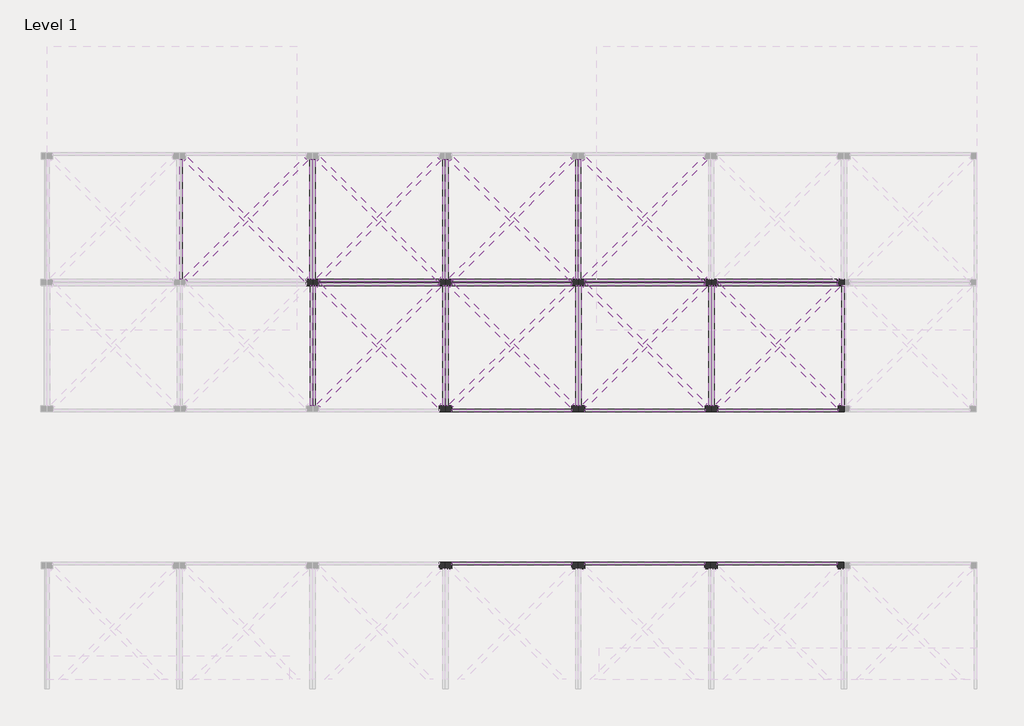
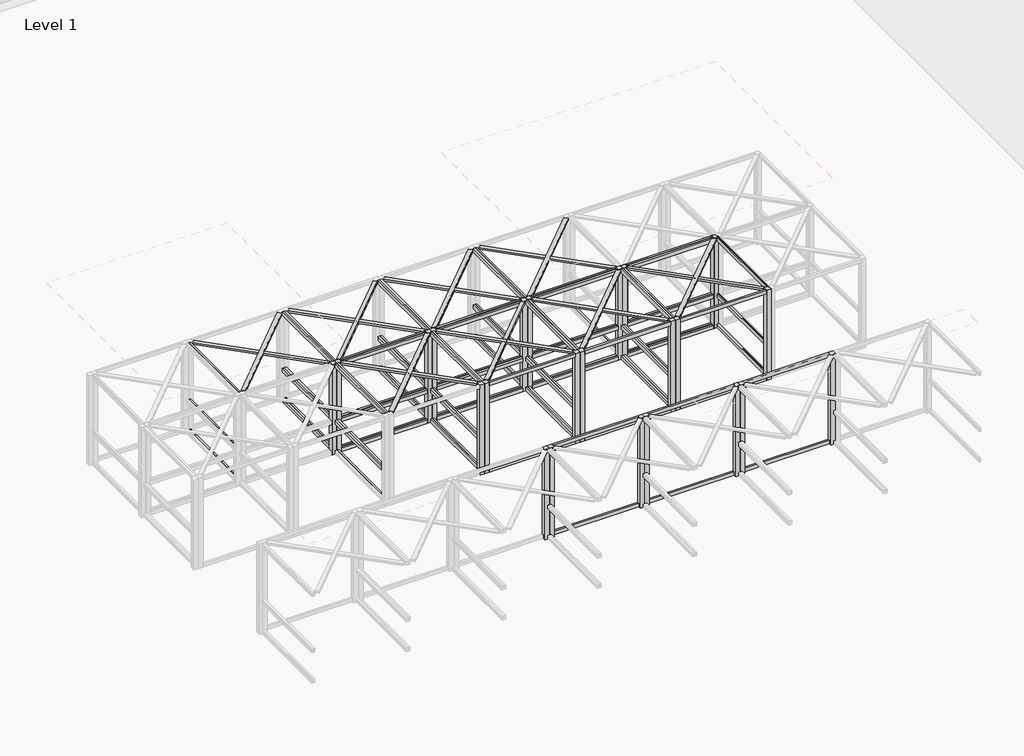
# One storey, part 22 of 32: 100 beams, 32 columns.
"""IFC4 building model written with IfcOpenShell, lengths in millimetres."""

from ifc_helpers import new_model, si_unit, origin, place, context, project, spatial, transform, mapped, element, save
from components import timber_gauged_nz_100_x_50_a05adcf6, timber_gauged_nz_100_x_50_e4b9d06e, timber_gauged_nz_100_x_50_66b63d81, timber_gauged_nz_100_x_50_718b6390, timber_gauged_nz_100_x_50_7774ab14, timber_gauged_nz_100_x_50_be6c7ca1, timber_gauged_nz_100_x_50_6be5a70a, timber_gauged_nz_100_x_50_7b7bee40, timber_gauged_nz_100_x_50_flat_212af973, timber_gauged_nz_100_x_50_flat_8016973c, column_timber_m_114x114_3b5997c2

model = new_model("IFC4")

# Units and contexts
model_context = context("Model", 3, world=origin())
ifc_project = project(units=[si_unit("LENGTHUNIT", "METRE", prefix="MILLI")], contexts=[model_context])

# Site, building, storey
site = spatial("IfcSite", under=ifc_project)
building = spatial("IfcBuilding", under=site)
storey = spatial("IfcBuildingStorey", under=building, Name="Level 1", Elevation=2800.0)

# Beams
placement = place(None, origin())
timber_gauged_nz_100_x_50_shape = timber_gauged_nz_100_x_50_a05adcf6(model_context)
element("IfcBeam", 1, ObjectType="Timber Gauged (NZ) : 100 x 50", at=placement, inside=storey, context=model_context, shape_type="MappedRepresentation", body=[
    mapped(timber_gauged_nz_100_x_50_shape, transform((-72399.6556755, -10111.9011548, 2847.0), x_axis=(1.0, 0.0, 0.0), y_axis=(0.0, 1.0, 0.0), z_axis=(0.0, 0.0, 1.0))),
])
element("IfcBeam", 2, ObjectType="Timber Gauged (NZ) : 100 x 50", at=placement, inside=storey, context=model_context, shape_type="MappedRepresentation", body=[
    mapped(timber_gauged_nz_100_x_50_shape, transform((-69999.6556755, -10111.9011548, 2847.0), x_axis=(1.0, 0.0, 0.0), y_axis=(0.0, 1.0, 0.0), z_axis=(0.0, 0.0, 1.0))),
])
element("IfcBeam", 3, ObjectType="Timber Gauged (NZ) : 100 x 50", at=placement, inside=storey, context=model_context, shape_type="MappedRepresentation", body=[
    mapped(timber_gauged_nz_100_x_50_shape, transform((-67595.3056755, -10111.9011548, 2847.0), x_axis=(1.0, 0.0, 0.0), y_axis=(0.0, 1.0, 0.0), z_axis=(0.0, 0.0, 1.0))),
])
element("IfcBeam", 4, ObjectType="Timber Gauged (NZ) : 100 x 50", at=placement, inside=storey, context=model_context, shape_type="MappedRepresentation", body=[
    mapped(timber_gauged_nz_100_x_50_shape, transform((-65190.9556755, -10111.9011548, 2847.0), x_axis=(1.0, 0.0, 0.0), y_axis=(0.0, 1.0, 0.0), z_axis=(0.0, 0.0, 1.0))),
])
element("IfcBeam", 5, ObjectType="Timber Gauged (NZ) : 100 x 50", at=placement, inside=storey, context=model_context, shape_type="MappedRepresentation", body=[
    mapped(timber_gauged_nz_100_x_50_shape, transform((-65204.0056755, -10182.1175809, 2847.0), x_axis=(-1.0, 0.0, 0.0), y_axis=(0.0, -1.0, 0.0), z_axis=(0.0, 0.0, 1.0))),
])
element("IfcBeam", 6, ObjectType="Timber Gauged (NZ) : 100 x 50", at=placement, inside=storey, context=model_context, shape_type="MappedRepresentation", body=[
    mapped(timber_gauged_nz_100_x_50_shape, transform((-67599.6556755, -10182.1175809, 2847.0), x_axis=(-1.0, 0.0, 0.0), y_axis=(0.0, -1.0, 0.0), z_axis=(0.0, 0.0, 1.0))),
])
element("IfcBeam", 7, ObjectType="Timber Gauged (NZ) : 100 x 50", at=placement, inside=storey, context=model_context, shape_type="MappedRepresentation", body=[
    mapped(timber_gauged_nz_100_x_50_shape, transform((-69999.6556755, -10182.1175809, 2847.0), x_axis=(-1.0, 0.0, 0.0), y_axis=(0.0, -1.0, 0.0), z_axis=(0.0, 0.0, 1.0))),
])
element("IfcBeam", 8, ObjectType="Timber Gauged (NZ) : 100 x 50", at=placement, inside=storey, context=model_context, shape_type="MappedRepresentation", body=[
    mapped(timber_gauged_nz_100_x_50_shape, transform((-72399.6556755, -10182.1175809, 2847.0), x_axis=(-1.0, 0.0, 0.0), y_axis=(0.0, -1.0, 0.0), z_axis=(0.0, 0.0, 1.0))),
])
timber_gauged_nz_100_x_50_2_shape = timber_gauged_nz_100_x_50_e4b9d06e(model_context)
element("IfcBeam", 9, ObjectType="Timber Gauged (NZ) : 100 x 50", at=placement, inside=storey, context=model_context, shape_type="MappedRepresentation", body=[
    mapped(timber_gauged_nz_100_x_50_2_shape, transform((-65190.8306755, -15229.1175809, 2847.0), x_axis=(-1.0, 0.0, 0.0), y_axis=(0.0, -1.0, 0.0), z_axis=(0.0, 0.0, 1.0))),
])
element("IfcBeam", 10, ObjectType="Timber Gauged (NZ) : 100 x 50", at=placement, inside=storey, context=model_context, shape_type="MappedRepresentation", body=[
    mapped(timber_gauged_nz_100_x_50_2_shape, transform((-67586.4806755, -15229.1175809, 2847.0), x_axis=(-1.0, 0.0, 0.0), y_axis=(0.0, -1.0, 0.0), z_axis=(0.0, 0.0, 1.0))),
])
element("IfcBeam", 11, ObjectType="Timber Gauged (NZ) : 100 x 50", at=placement, inside=storey, context=model_context, shape_type="MappedRepresentation", body=[
    mapped(timber_gauged_nz_100_x_50_2_shape, transform((-69986.4806755, -15229.1175809, 2847.0), x_axis=(-1.0, 0.0, 0.0), y_axis=(0.0, -1.0, 0.0), z_axis=(0.0, 0.0, 1.0))),
])
element("IfcBeam", 12, ObjectType="Timber Gauged (NZ) : 100 x 50", at=placement, inside=storey, context=model_context, shape_type="MappedRepresentation", body=[
    mapped(timber_gauged_nz_100_x_50_2_shape, transform((-70012.8306755, -12464.9011548, 2847.0), x_axis=(1.0, 0.0, 0.0), y_axis=(0.0, 1.0, 0.0), z_axis=(0.0, 0.0, 1.0))),
])
element("IfcBeam", 13, ObjectType="Timber Gauged (NZ) : 100 x 50", at=placement, inside=storey, context=model_context, shape_type="MappedRepresentation", body=[
    mapped(timber_gauged_nz_100_x_50_2_shape, transform((-67608.4806755, -12464.9011548, 2847.0), x_axis=(1.0, 0.0, 0.0), y_axis=(0.0, 1.0, 0.0), z_axis=(0.0, 0.0, 1.0))),
])
element("IfcBeam", 14, ObjectType="Timber Gauged (NZ) : 100 x 50", at=placement, inside=storey, context=model_context, shape_type="MappedRepresentation", body=[
    mapped(timber_gauged_nz_100_x_50_2_shape, transform((-65204.1306755, -12464.9011548, 2847.0), x_axis=(1.0, 0.0, 0.0), y_axis=(0.0, 1.0, 0.0), z_axis=(0.0, 0.0, 1.0))),
])
timber_gauged_nz_100_x_50_3_shape = timber_gauged_nz_100_x_50_66b63d81(model_context)
element("IfcBeam", 15, ObjectType="Timber Gauged (NZ) : 100 x 50", at=placement, inside=storey, context=model_context, shape_type="MappedRepresentation", body=[
    mapped(timber_gauged_nz_100_x_50_3_shape, transform((-73576.1556755, -11288.4011548, 2847.0), x_axis=(0.0, -1.0, 0.0), y_axis=(1.0, 0.0, 0.0), z_axis=(0.0, 0.0, 1.0))),
])
element("IfcBeam", 16, ObjectType="Timber Gauged (NZ) : 100 x 50", at=placement, inside=storey, context=model_context, shape_type="MappedRepresentation", body=[
    mapped(timber_gauged_nz_100_x_50_3_shape, transform((-71176.1556755, -11288.4011548, 2847.0), x_axis=(0.0, -1.0, 0.0), y_axis=(1.0, 0.0, 0.0), z_axis=(0.0, 0.0, 1.0))),
])
element("IfcBeam", 17, ObjectType="Timber Gauged (NZ) : 100 x 50", at=placement, inside=storey, context=model_context, shape_type="MappedRepresentation", body=[
    mapped(timber_gauged_nz_100_x_50_3_shape, transform((-68771.8056755, -11288.4011548, 2847.0), x_axis=(0.0, -1.0, 0.0), y_axis=(1.0, 0.0, 0.0), z_axis=(0.0, 0.0, 1.0))),
])
element("IfcBeam", 18, ObjectType="Timber Gauged (NZ) : 100 x 50", at=placement, inside=storey, context=model_context, shape_type="MappedRepresentation", body=[
    mapped(timber_gauged_nz_100_x_50_3_shape, transform((-66367.4556755, -11288.4011548, 2847.0), x_axis=(0.0, -1.0, 0.0), y_axis=(1.0, 0.0, 0.0), z_axis=(0.0, 0.0, 1.0))),
])
element("IfcBeam", 19, ObjectType="Timber Gauged (NZ) : 100 x 50", at=placement, inside=storey, context=model_context, shape_type="MappedRepresentation", body=[
    mapped(timber_gauged_nz_100_x_50_3_shape, transform((-68823.1556755, -9005.6175809, 2847.0), x_axis=(0.0, 1.0, 0.0), y_axis=(-1.0, 0.0, 0.0), z_axis=(0.0, 0.0, 1.0))),
])
element("IfcBeam", 20, ObjectType="Timber Gauged (NZ) : 100 x 50", at=placement, inside=storey, context=model_context, shape_type="MappedRepresentation", body=[
    mapped(timber_gauged_nz_100_x_50_3_shape, transform((-71223.1556755, -9005.6175809, 2847.0), x_axis=(0.0, 1.0, 0.0), y_axis=(-1.0, 0.0, 0.0), z_axis=(0.0, 0.0, 1.0))),
])
element("IfcBeam", 21, ObjectType="Timber Gauged (NZ) : 100 x 50", at=placement, inside=storey, context=model_context, shape_type="MappedRepresentation", body=[
    mapped(timber_gauged_nz_100_x_50_3_shape, transform((-73627.5056755, -9005.6175809, 2847.0), x_axis=(0.0, 1.0, 0.0), y_axis=(-1.0, 0.0, 0.0), z_axis=(0.0, 0.0, 1.0))),
])
element("IfcBeam", 22, ObjectType="Timber Gauged (NZ) : 100 x 50", at=placement, inside=storey, context=model_context, shape_type="MappedRepresentation", body=[
    mapped(timber_gauged_nz_100_x_50_3_shape, transform((-71223.1556755, -11288.4011548, 2847.0), x_axis=(0.0, -1.0, 0.0), y_axis=(1.0, 0.0, 0.0), z_axis=(0.0, 0.0, 1.0))),
])
element("IfcBeam", 23, ObjectType="Timber Gauged (NZ) : 100 x 50", at=placement, inside=storey, context=model_context, shape_type="MappedRepresentation", body=[
    mapped(timber_gauged_nz_100_x_50_3_shape, transform((-68823.1556755, -11288.4011548, 2847.0), x_axis=(0.0, -1.0, 0.0), y_axis=(1.0, 0.0, 0.0), z_axis=(0.0, 0.0, 1.0))),
])
element("IfcBeam", 24, ObjectType="Timber Gauged (NZ) : 100 x 50", at=placement, inside=storey, context=model_context, shape_type="MappedRepresentation", body=[
    mapped(timber_gauged_nz_100_x_50_3_shape, transform((-66418.8056755, -11288.4011548, 2847.0), x_axis=(0.0, -1.0, 0.0), y_axis=(1.0, 0.0, 0.0), z_axis=(0.0, 0.0, 1.0))),
])
element("IfcBeam", 25, ObjectType="Timber Gauged (NZ) : 100 x 50", at=placement, inside=storey, context=model_context, shape_type="MappedRepresentation", body=[
    mapped(timber_gauged_nz_100_x_50_3_shape, transform((-64014.4556755, -11288.4011548, 2847.0), x_axis=(0.0, -1.0, 0.0), y_axis=(1.0, 0.0, 0.0), z_axis=(0.0, 0.0, 1.0))),
])
element("IfcBeam", 26, ObjectType="Timber Gauged (NZ) : 100 x 50", at=placement, inside=storey, context=model_context, shape_type="MappedRepresentation", body=[
    mapped(timber_gauged_nz_100_x_50_3_shape, transform((-66380.5056755, -9005.6175809, 2847.0), x_axis=(0.0, 1.0, 0.0), y_axis=(-1.0, 0.0, 0.0), z_axis=(0.0, 0.0, 1.0))),
])
element("IfcBeam", 27, ObjectType="Timber Gauged (NZ) : 100 x 50", at=placement, inside=storey, context=model_context, shape_type="MappedRepresentation", body=[
    mapped(timber_gauged_nz_100_x_50_3_shape, transform((-68776.1556755, -9005.6175809, 2847.0), x_axis=(0.0, 1.0, 0.0), y_axis=(-1.0, 0.0, 0.0), z_axis=(0.0, 0.0, 1.0))),
])
element("IfcBeam", 28, ObjectType="Timber Gauged (NZ) : 100 x 50", at=placement, inside=storey, context=model_context, shape_type="MappedRepresentation", body=[
    mapped(timber_gauged_nz_100_x_50_3_shape, transform((-71176.1556755, -9005.6175809, 2847.0), x_axis=(0.0, 1.0, 0.0), y_axis=(-1.0, 0.0, 0.0), z_axis=(0.0, 0.0, 1.0))),
])
element("IfcBeam", 29, ObjectType="Timber Gauged (NZ) : 100 x 50", at=placement, inside=storey, context=model_context, shape_type="MappedRepresentation", body=[
    mapped(timber_gauged_nz_100_x_50_3_shape, transform((-73576.1556755, -9005.6175809, 2847.0), x_axis=(0.0, 1.0, 0.0), y_axis=(-1.0, 0.0, 0.0), z_axis=(0.0, 0.0, 1.0))),
])
element("IfcBeam", 30, ObjectType="Timber Gauged (NZ) : 100 x 50", at=placement, inside=storey, context=model_context, shape_type="MappedRepresentation", body=[
    mapped(timber_gauged_nz_100_x_50_3_shape, transform((-75980.5056755, -9005.6175809, 2847.0), x_axis=(0.0, 1.0, 0.0), y_axis=(-1.0, 0.0, 0.0), z_axis=(0.0, 0.0, 1.0))),
])
timber_gauged_nz_100_x_50_4_shape = timber_gauged_nz_100_x_50_718b6390(model_context)
element("IfcBeam", 31, ObjectType="Timber Gauged (NZ) : 100 x 50", at=placement, inside=storey, context=model_context, shape_type="MappedRepresentation", body=[
    mapped(timber_gauged_nz_100_x_50_4_shape, transform((-72407.5056755, -10111.9011548, 5153.0), x_axis=(1.0, 0.0, 0.0), y_axis=(0.0, 1.0, 0.0), z_axis=(0.0, 0.0, 1.0))),
])
element("IfcBeam", 32, ObjectType="Timber Gauged (NZ) : 100 x 50", at=placement, inside=storey, context=model_context, shape_type="MappedRepresentation", body=[
    mapped(timber_gauged_nz_100_x_50_4_shape, transform((-72407.5056755, -10111.9011548, 3653.0), x_axis=(1.0, 0.0, 0.0), y_axis=(0.0, 1.0, 0.0), z_axis=(0.0, 0.0, 1.0))),
])
element("IfcBeam", 33, ObjectType="Timber Gauged (NZ) : 100 x 50", at=placement, inside=storey, context=model_context, shape_type="MappedRepresentation", body=[
    mapped(timber_gauged_nz_100_x_50_4_shape, transform((-70007.5056755, -10111.9011548, 5153.0), x_axis=(1.0, 0.0, 0.0), y_axis=(0.0, 1.0, 0.0), z_axis=(0.0, 0.0, 1.0))),
])
element("IfcBeam", 34, ObjectType="Timber Gauged (NZ) : 100 x 50", at=placement, inside=storey, context=model_context, shape_type="MappedRepresentation", body=[
    mapped(timber_gauged_nz_100_x_50_4_shape, transform((-70007.5056755, -10111.9011548, 3653.0), x_axis=(1.0, 0.0, 0.0), y_axis=(0.0, 1.0, 0.0), z_axis=(0.0, 0.0, 1.0))),
])
element("IfcBeam", 35, ObjectType="Timber Gauged (NZ) : 100 x 50", at=placement, inside=storey, context=model_context, shape_type="MappedRepresentation", body=[
    mapped(timber_gauged_nz_100_x_50_4_shape, transform((-67603.1556755, -10111.9011548, 5153.0), x_axis=(1.0, 0.0, 0.0), y_axis=(0.0, 1.0, 0.0), z_axis=(0.0, 0.0, 1.0))),
])
element("IfcBeam", 36, ObjectType="Timber Gauged (NZ) : 100 x 50", at=placement, inside=storey, context=model_context, shape_type="MappedRepresentation", body=[
    mapped(timber_gauged_nz_100_x_50_4_shape, transform((-67603.1556755, -10111.9011548, 3653.0), x_axis=(1.0, 0.0, 0.0), y_axis=(0.0, 1.0, 0.0), z_axis=(0.0, 0.0, 1.0))),
])
element("IfcBeam", 37, ObjectType="Timber Gauged (NZ) : 100 x 50", at=placement, inside=storey, context=model_context, shape_type="MappedRepresentation", body=[
    mapped(timber_gauged_nz_100_x_50_4_shape, transform((-65198.8056755, -10111.9011548, 5153.0), x_axis=(1.0, 0.0, 0.0), y_axis=(0.0, 1.0, 0.0), z_axis=(0.0, 0.0, 1.0))),
])
element("IfcBeam", 38, ObjectType="Timber Gauged (NZ) : 100 x 50", at=placement, inside=storey, context=model_context, shape_type="MappedRepresentation", body=[
    mapped(timber_gauged_nz_100_x_50_4_shape, transform((-65198.8056755, -10111.9011548, 3653.0), x_axis=(1.0, 0.0, 0.0), y_axis=(0.0, 1.0, 0.0), z_axis=(0.0, 0.0, 1.0))),
])
element("IfcBeam", 39, ObjectType="Timber Gauged (NZ) : 100 x 50", at=placement, inside=storey, context=model_context, shape_type="MappedRepresentation", body=[
    mapped(timber_gauged_nz_100_x_50_4_shape, transform((-65196.1556755, -10182.1175809, 5153.0), x_axis=(-1.0, 0.0, 0.0), y_axis=(0.0, -1.0, 0.0), z_axis=(0.0, 0.0, 1.0))),
])
element("IfcBeam", 40, ObjectType="Timber Gauged (NZ) : 100 x 50", at=placement, inside=storey, context=model_context, shape_type="MappedRepresentation", body=[
    mapped(timber_gauged_nz_100_x_50_4_shape, transform((-65196.1556755, -10182.1175809, 3653.0), x_axis=(-1.0, 0.0, 0.0), y_axis=(0.0, -1.0, 0.0), z_axis=(0.0, 0.0, 1.0))),
])
element("IfcBeam", 41, ObjectType="Timber Gauged (NZ) : 100 x 50", at=placement, inside=storey, context=model_context, shape_type="MappedRepresentation", body=[
    mapped(timber_gauged_nz_100_x_50_4_shape, transform((-67591.8056755, -10182.1175809, 5153.0), x_axis=(-1.0, 0.0, 0.0), y_axis=(0.0, -1.0, 0.0), z_axis=(0.0, 0.0, 1.0))),
])
element("IfcBeam", 42, ObjectType="Timber Gauged (NZ) : 100 x 50", at=placement, inside=storey, context=model_context, shape_type="MappedRepresentation", body=[
    mapped(timber_gauged_nz_100_x_50_4_shape, transform((-67591.8056755, -10182.1175809, 3653.0), x_axis=(-1.0, 0.0, 0.0), y_axis=(0.0, -1.0, 0.0), z_axis=(0.0, 0.0, 1.0))),
])
element("IfcBeam", 43, ObjectType="Timber Gauged (NZ) : 100 x 50", at=placement, inside=storey, context=model_context, shape_type="MappedRepresentation", body=[
    mapped(timber_gauged_nz_100_x_50_4_shape, transform((-69991.8056755, -10182.1175809, 5153.0), x_axis=(-1.0, 0.0, 0.0), y_axis=(0.0, -1.0, 0.0), z_axis=(0.0, 0.0, 1.0))),
])
element("IfcBeam", 44, ObjectType="Timber Gauged (NZ) : 100 x 50", at=placement, inside=storey, context=model_context, shape_type="MappedRepresentation", body=[
    mapped(timber_gauged_nz_100_x_50_4_shape, transform((-69991.8056755, -10182.1175809, 3653.0), x_axis=(-1.0, 0.0, 0.0), y_axis=(0.0, -1.0, 0.0), z_axis=(0.0, 0.0, 1.0))),
])
element("IfcBeam", 45, ObjectType="Timber Gauged (NZ) : 100 x 50", at=placement, inside=storey, context=model_context, shape_type="MappedRepresentation", body=[
    mapped(timber_gauged_nz_100_x_50_4_shape, transform((-72391.8056755, -10182.1175809, 5153.0), x_axis=(-1.0, 0.0, 0.0), y_axis=(0.0, -1.0, 0.0), z_axis=(0.0, 0.0, 1.0))),
])
element("IfcBeam", 46, ObjectType="Timber Gauged (NZ) : 100 x 50", at=placement, inside=storey, context=model_context, shape_type="MappedRepresentation", body=[
    mapped(timber_gauged_nz_100_x_50_4_shape, transform((-72391.8056755, -10182.1175809, 3653.0), x_axis=(-1.0, 0.0, 0.0), y_axis=(0.0, -1.0, 0.0), z_axis=(0.0, 0.0, 1.0))),
])
timber_gauged_nz_100_x_50_5_shape = timber_gauged_nz_100_x_50_7774ab14(model_context)
element("IfcBeam", 47, ObjectType="Timber Gauged (NZ) : 100 x 50", at=placement, inside=storey, context=model_context, shape_type="MappedRepresentation", body=[
    mapped(timber_gauged_nz_100_x_50_5_shape, transform((-65208.6556755, -15229.1175809, 5153.0), x_axis=(-1.0, 0.0, 0.0), y_axis=(0.0, -1.0, 0.0), z_axis=(0.0, 0.0, 1.0))),
])
element("IfcBeam", 48, ObjectType="Timber Gauged (NZ) : 100 x 50", at=placement, inside=storey, context=model_context, shape_type="MappedRepresentation", body=[
    mapped(timber_gauged_nz_100_x_50_5_shape, transform((-67604.3056755, -15229.1175809, 5153.0), x_axis=(-1.0, 0.0, 0.0), y_axis=(0.0, -1.0, 0.0), z_axis=(0.0, 0.0, 1.0))),
])
element("IfcBeam", 49, ObjectType="Timber Gauged (NZ) : 100 x 50", at=placement, inside=storey, context=model_context, shape_type="MappedRepresentation", body=[
    mapped(timber_gauged_nz_100_x_50_5_shape, transform((-70004.3056755, -15229.1175809, 5153.0), x_axis=(-1.0, 0.0, 0.0), y_axis=(0.0, -1.0, 0.0), z_axis=(0.0, 0.0, 1.0))),
])
element("IfcBeam", 50, ObjectType="Timber Gauged (NZ) : 100 x 50", at=placement, inside=storey, context=model_context, shape_type="MappedRepresentation", body=[
    mapped(timber_gauged_nz_100_x_50_5_shape, transform((-69995.0056755, -12464.9011548, 5153.0), x_axis=(1.0, 0.0, 0.0), y_axis=(0.0, 1.0, 0.0), z_axis=(0.0, 0.0, 1.0))),
])
element("IfcBeam", 51, ObjectType="Timber Gauged (NZ) : 100 x 50", at=placement, inside=storey, context=model_context, shape_type="MappedRepresentation", body=[
    mapped(timber_gauged_nz_100_x_50_5_shape, transform((-67590.6556755, -12464.9011548, 5153.0), x_axis=(1.0, 0.0, 0.0), y_axis=(0.0, 1.0, 0.0), z_axis=(0.0, 0.0, 1.0))),
])
element("IfcBeam", 52, ObjectType="Timber Gauged (NZ) : 100 x 50", at=placement, inside=storey, context=model_context, shape_type="MappedRepresentation", body=[
    mapped(timber_gauged_nz_100_x_50_5_shape, transform((-65186.3056755, -12464.9011548, 5153.0), x_axis=(1.0, 0.0, 0.0), y_axis=(0.0, 1.0, 0.0), z_axis=(0.0, 0.0, 1.0))),
])
timber_gauged_nz_100_x_50_6_shape = timber_gauged_nz_100_x_50_be6c7ca1(model_context)
element("IfcBeam", 53, ObjectType="Timber Gauged (NZ) : 100 x 50", at=placement, inside=storey, context=model_context, shape_type="MappedRepresentation", body=[
    mapped(timber_gauged_nz_100_x_50_6_shape, transform((-73576.1556755, -11219.9011548, 5153.0), x_axis=(0.0, -1.0, 0.0), y_axis=(1.0, 0.0, 0.0), z_axis=(0.0, 0.0, 1.0))),
])
element("IfcBeam", 54, ObjectType="Timber Gauged (NZ) : 100 x 50", at=placement, inside=storey, context=model_context, shape_type="MappedRepresentation", body=[
    mapped(timber_gauged_nz_100_x_50_6_shape, transform((-71176.1556755, -11219.9011548, 5153.0), x_axis=(0.0, -1.0, 0.0), y_axis=(1.0, 0.0, 0.0), z_axis=(0.0, 0.0, 1.0))),
])
element("IfcBeam", 55, ObjectType="Timber Gauged (NZ) : 100 x 50", at=placement, inside=storey, context=model_context, shape_type="MappedRepresentation", body=[
    mapped(timber_gauged_nz_100_x_50_6_shape, transform((-68771.8056755, -11219.9011548, 5153.0), x_axis=(0.0, -1.0, 0.0), y_axis=(1.0, 0.0, 0.0), z_axis=(0.0, 0.0, 1.0))),
])
element("IfcBeam", 56, ObjectType="Timber Gauged (NZ) : 100 x 50", at=placement, inside=storey, context=model_context, shape_type="MappedRepresentation", body=[
    mapped(timber_gauged_nz_100_x_50_6_shape, transform((-66367.4556755, -11219.9011548, 5153.0), x_axis=(0.0, -1.0, 0.0), y_axis=(1.0, 0.0, 0.0), z_axis=(0.0, 0.0, 1.0))),
])
element("IfcBeam", 57, ObjectType="Timber Gauged (NZ) : 100 x 50", at=placement, inside=storey, context=model_context, shape_type="MappedRepresentation", body=[
    mapped(timber_gauged_nz_100_x_50_6_shape, transform((-68823.1556755, -9074.1175809, 5153.0), x_axis=(0.0, 1.0, 0.0), y_axis=(-1.0, 0.0, 0.0), z_axis=(0.0, 0.0, 1.0))),
])
element("IfcBeam", 58, ObjectType="Timber Gauged (NZ) : 100 x 50", at=placement, inside=storey, context=model_context, shape_type="MappedRepresentation", body=[
    mapped(timber_gauged_nz_100_x_50_6_shape, transform((-71223.1556755, -9074.1175809, 5153.0), x_axis=(0.0, 1.0, 0.0), y_axis=(-1.0, 0.0, 0.0), z_axis=(0.0, 0.0, 1.0))),
])
element("IfcBeam", 59, ObjectType="Timber Gauged (NZ) : 100 x 50", at=placement, inside=storey, context=model_context, shape_type="MappedRepresentation", body=[
    mapped(timber_gauged_nz_100_x_50_6_shape, transform((-73627.5056755, -9074.1175809, 5153.0), x_axis=(0.0, 1.0, 0.0), y_axis=(-1.0, 0.0, 0.0), z_axis=(0.0, 0.0, 1.0))),
])
timber_gauged_nz_100_x_50_7_shape = timber_gauged_nz_100_x_50_6be5a70a(model_context)
element("IfcBeam", 60, ObjectType="Timber Gauged (NZ) : 100 x 50", at=placement, inside=storey, context=model_context, shape_type="MappedRepresentation", body=[
    mapped(timber_gauged_nz_100_x_50_7_shape, transform((-73623.1556755, -11264.9011548, 5153.0), x_axis=(0.0, -1.0, 0.0), y_axis=(1.0, 0.0, 0.0), z_axis=(0.0, 0.0, 1.0))),
])
element("IfcBeam", 61, ObjectType="Timber Gauged (NZ) : 100 x 50", at=placement, inside=storey, context=model_context, shape_type="MappedRepresentation", body=[
    mapped(timber_gauged_nz_100_x_50_7_shape, transform((-71223.1556755, -11264.9011548, 5153.0), x_axis=(0.0, -1.0, 0.0), y_axis=(1.0, 0.0, 0.0), z_axis=(0.0, 0.0, 1.0))),
])
element("IfcBeam", 62, ObjectType="Timber Gauged (NZ) : 100 x 50", at=placement, inside=storey, context=model_context, shape_type="MappedRepresentation", body=[
    mapped(timber_gauged_nz_100_x_50_7_shape, transform((-68823.1556755, -11264.9011548, 5153.0), x_axis=(0.0, -1.0, 0.0), y_axis=(1.0, 0.0, 0.0), z_axis=(0.0, 0.0, 1.0))),
])
element("IfcBeam", 63, ObjectType="Timber Gauged (NZ) : 100 x 50", at=placement, inside=storey, context=model_context, shape_type="MappedRepresentation", body=[
    mapped(timber_gauged_nz_100_x_50_7_shape, transform((-66418.8056755, -11264.9011548, 5153.0), x_axis=(0.0, -1.0, 0.0), y_axis=(1.0, 0.0, 0.0), z_axis=(0.0, 0.0, 1.0))),
])
element("IfcBeam", 64, ObjectType="Timber Gauged (NZ) : 100 x 50", at=placement, inside=storey, context=model_context, shape_type="MappedRepresentation", body=[
    mapped(timber_gauged_nz_100_x_50_7_shape, transform((-64014.4556755, -11264.9011548, 5153.0), x_axis=(0.0, -1.0, 0.0), y_axis=(1.0, 0.0, 0.0), z_axis=(0.0, 0.0, 1.0))),
])
element("IfcBeam", 65, ObjectType="Timber Gauged (NZ) : 100 x 50", at=placement, inside=storey, context=model_context, shape_type="MappedRepresentation", body=[
    mapped(timber_gauged_nz_100_x_50_7_shape, transform((-68776.1556755, -9029.1175809, 5153.0), x_axis=(0.0, 1.0, 0.0), y_axis=(-1.0, 0.0, 0.0), z_axis=(0.0, 0.0, 1.0))),
])
element("IfcBeam", 66, ObjectType="Timber Gauged (NZ) : 100 x 50", at=placement, inside=storey, context=model_context, shape_type="MappedRepresentation", body=[
    mapped(timber_gauged_nz_100_x_50_7_shape, transform((-71176.1556755, -9029.1175809, 5153.0), x_axis=(0.0, 1.0, 0.0), y_axis=(-1.0, 0.0, 0.0), z_axis=(0.0, 0.0, 1.0))),
])
element("IfcBeam", 67, ObjectType="Timber Gauged (NZ) : 100 x 50", at=placement, inside=storey, context=model_context, shape_type="MappedRepresentation", body=[
    mapped(timber_gauged_nz_100_x_50_7_shape, transform((-73576.1556755, -9029.1175809, 5153.0), x_axis=(0.0, 1.0, 0.0), y_axis=(-1.0, 0.0, 0.0), z_axis=(0.0, 0.0, 1.0))),
])
element("IfcBeam", 68, ObjectType="Timber Gauged (NZ) : 100 x 50", at=placement, inside=storey, context=model_context, shape_type="MappedRepresentation", body=[
    mapped(timber_gauged_nz_100_x_50_7_shape, transform((-75980.5056755, -9029.1175809, 5153.0), x_axis=(0.0, 1.0, 0.0), y_axis=(-1.0, 0.0, 0.0), z_axis=(0.0, 0.0, 1.0))),
])
timber_gauged_nz_100_x_50_8_shape = timber_gauged_nz_100_x_50_7b7bee40(model_context)
element("IfcBeam", 69, ObjectType="Timber Gauged (NZ) : 100 x 50", at=placement, inside=storey, context=model_context, shape_type="MappedRepresentation", body=[
    mapped(timber_gauged_nz_100_x_50_8_shape, transform((-73576.1556755, -11344.9011548, 3653.0), x_axis=(0.0, -1.0, 0.0), y_axis=(1.0, 0.0, 0.0), z_axis=(0.0, 0.0, 1.0))),
])
element("IfcBeam", 70, ObjectType="Timber Gauged (NZ) : 100 x 50", at=placement, inside=storey, context=model_context, shape_type="MappedRepresentation", body=[
    mapped(timber_gauged_nz_100_x_50_8_shape, transform((-71176.1556755, -11344.9011548, 3653.0), x_axis=(0.0, -1.0, 0.0), y_axis=(1.0, 0.0, 0.0), z_axis=(0.0, 0.0, 1.0))),
])
element("IfcBeam", 71, ObjectType="Timber Gauged (NZ) : 100 x 50", at=placement, inside=storey, context=model_context, shape_type="MappedRepresentation", body=[
    mapped(timber_gauged_nz_100_x_50_8_shape, transform((-68771.8056755, -11344.9011548, 3653.0), x_axis=(0.0, -1.0, 0.0), y_axis=(1.0, 0.0, 0.0), z_axis=(0.0, 0.0, 1.0))),
])
element("IfcBeam", 72, ObjectType="Timber Gauged (NZ) : 100 x 50", at=placement, inside=storey, context=model_context, shape_type="MappedRepresentation", body=[
    mapped(timber_gauged_nz_100_x_50_8_shape, transform((-66367.4556755, -11344.9011548, 3653.0), x_axis=(0.0, -1.0, 0.0), y_axis=(1.0, 0.0, 0.0), z_axis=(0.0, 0.0, 1.0))),
])
element("IfcBeam", 73, ObjectType="Timber Gauged (NZ) : 100 x 50", at=placement, inside=storey, context=model_context, shape_type="MappedRepresentation", body=[
    mapped(timber_gauged_nz_100_x_50_8_shape, transform((-68823.1556755, -8949.1175809, 3653.0), x_axis=(0.0, 1.0, 0.0), y_axis=(-1.0, 0.0, 0.0), z_axis=(0.0, 0.0, 1.0))),
])
element("IfcBeam", 74, ObjectType="Timber Gauged (NZ) : 100 x 50", at=placement, inside=storey, context=model_context, shape_type="MappedRepresentation", body=[
    mapped(timber_gauged_nz_100_x_50_8_shape, transform((-71223.1556755, -8949.1175809, 3653.0), x_axis=(0.0, 1.0, 0.0), y_axis=(-1.0, 0.0, 0.0), z_axis=(0.0, 0.0, 1.0))),
])
element("IfcBeam", 75, ObjectType="Timber Gauged (NZ) : 100 x 50", at=placement, inside=storey, context=model_context, shape_type="MappedRepresentation", body=[
    mapped(timber_gauged_nz_100_x_50_8_shape, transform((-73627.5056755, -8949.1175809, 3653.0), x_axis=(0.0, 1.0, 0.0), y_axis=(-1.0, 0.0, 0.0), z_axis=(0.0, 0.0, 1.0))),
])
element("IfcBeam", 76, ObjectType="Timber Gauged (NZ) : 100 x 50", at=placement, inside=storey, context=model_context, shape_type="MappedRepresentation", body=[
    mapped(timber_gauged_nz_100_x_50_7_shape, transform((-73623.1556755, -11264.7011548, 3653.0), x_axis=(0.0, -1.0, 0.0), y_axis=(1.0, 0.0, 0.0), z_axis=(0.0, 0.0, 1.0))),
])
element("IfcBeam", 77, ObjectType="Timber Gauged (NZ) : 100 x 50", at=placement, inside=storey, context=model_context, shape_type="MappedRepresentation", body=[
    mapped(timber_gauged_nz_100_x_50_7_shape, transform((-71223.1556755, -11264.7011548, 3653.0), x_axis=(0.0, -1.0, 0.0), y_axis=(1.0, 0.0, 0.0), z_axis=(0.0, 0.0, 1.0))),
])
element("IfcBeam", 78, ObjectType="Timber Gauged (NZ) : 100 x 50", at=placement, inside=storey, context=model_context, shape_type="MappedRepresentation", body=[
    mapped(timber_gauged_nz_100_x_50_7_shape, transform((-68823.1556755, -11264.7011548, 3653.0), x_axis=(0.0, -1.0, 0.0), y_axis=(1.0, 0.0, 0.0), z_axis=(0.0, 0.0, 1.0))),
])
element("IfcBeam", 79, ObjectType="Timber Gauged (NZ) : 100 x 50", at=placement, inside=storey, context=model_context, shape_type="MappedRepresentation", body=[
    mapped(timber_gauged_nz_100_x_50_7_shape, transform((-66418.8056755, -11264.7011548, 3653.0), x_axis=(0.0, -1.0, 0.0), y_axis=(1.0, 0.0, 0.0), z_axis=(0.0, 0.0, 1.0))),
])
element("IfcBeam", 80, ObjectType="Timber Gauged (NZ) : 100 x 50", at=placement, inside=storey, context=model_context, shape_type="MappedRepresentation", body=[
    mapped(timber_gauged_nz_100_x_50_7_shape, transform((-64014.4556755, -11264.7011548, 3653.0), x_axis=(0.0, -1.0, 0.0), y_axis=(1.0, 0.0, 0.0), z_axis=(0.0, 0.0, 1.0))),
])
element("IfcBeam", 81, ObjectType="Timber Gauged (NZ) : 100 x 50", at=placement, inside=storey, context=model_context, shape_type="MappedRepresentation", body=[
    mapped(timber_gauged_nz_100_x_50_7_shape, transform((-68776.1556755, -9029.3175809, 3653.0), x_axis=(0.0, 1.0, 0.0), y_axis=(-1.0, 0.0, 0.0), z_axis=(0.0, 0.0, 1.0))),
])
element("IfcBeam", 82, ObjectType="Timber Gauged (NZ) : 100 x 50", at=placement, inside=storey, context=model_context, shape_type="MappedRepresentation", body=[
    mapped(timber_gauged_nz_100_x_50_7_shape, transform((-71176.1556755, -9029.3175809, 3653.0), x_axis=(0.0, 1.0, 0.0), y_axis=(-1.0, 0.0, 0.0), z_axis=(0.0, 0.0, 1.0))),
])
element("IfcBeam", 83, ObjectType="Timber Gauged (NZ) : 100 x 50", at=placement, inside=storey, context=model_context, shape_type="MappedRepresentation", body=[
    mapped(timber_gauged_nz_100_x_50_7_shape, transform((-73576.1556755, -9029.3175809, 3653.0), x_axis=(0.0, 1.0, 0.0), y_axis=(-1.0, 0.0, 0.0), z_axis=(0.0, 0.0, 1.0))),
])
element("IfcBeam", 84, ObjectType="Timber Gauged (NZ) : 100 x 50", at=placement, inside=storey, context=model_context, shape_type="MappedRepresentation", body=[
    mapped(timber_gauged_nz_100_x_50_7_shape, transform((-75980.5056755, -9029.3175809, 3653.0), x_axis=(0.0, 1.0, 0.0), y_axis=(-1.0, 0.0, 0.0), z_axis=(0.0, 0.0, 1.0))),
])
timber_gauged_nz_100_x_50_flat_shape = timber_gauged_nz_100_x_50_flat_212af973(model_context)
element("IfcBeam", 85, ObjectType="Timber Gauged (NZ) : 100 x 50 Flat", at=placement, inside=storey, context=model_context, shape_type="MappedRepresentation", body=[
    mapped(timber_gauged_nz_100_x_50_flat_shape, transform((-72395.4150144, -11283.5138698, 5176.5), x_axis=(0.707106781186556, 0.7071067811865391, 0.0), y_axis=(-0.7071067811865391, 0.707106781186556, 0.0), z_axis=(0.0, 0.0, 1.0))),
])
element("IfcBeam", 86, ObjectType="Timber Gauged (NZ) : 100 x 50 Flat", at=placement, inside=storey, context=model_context, shape_type="MappedRepresentation", body=[
    mapped(timber_gauged_nz_100_x_50_flat_shape, transform((-69995.4150144, -11283.5138698, 5176.5), x_axis=(0.707106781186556, 0.7071067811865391, 0.0), y_axis=(-0.7071067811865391, 0.707106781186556, 0.0), z_axis=(0.0, 0.0, 1.0))),
])
element("IfcBeam", 87, ObjectType="Timber Gauged (NZ) : 100 x 50 Flat", at=placement, inside=storey, context=model_context, shape_type="MappedRepresentation", body=[
    mapped(timber_gauged_nz_100_x_50_flat_shape, transform((-67591.0650144, -11283.5138698, 5176.5), x_axis=(0.707106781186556, 0.7071067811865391, 0.0), y_axis=(-0.7071067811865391, 0.707106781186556, 0.0), z_axis=(0.0, 0.0, 1.0))),
])
element("IfcBeam", 88, ObjectType="Timber Gauged (NZ) : 100 x 50 Flat", at=placement, inside=storey, context=model_context, shape_type="MappedRepresentation", body=[
    mapped(timber_gauged_nz_100_x_50_flat_shape, transform((-65186.7150144, -11283.5138698, 5176.5), x_axis=(0.707106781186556, 0.7071067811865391, 0.0), y_axis=(-0.7071067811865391, 0.707106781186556, 0.0), z_axis=(0.0, 0.0, 1.0))),
])
element("IfcBeam", 89, ObjectType="Timber Gauged (NZ) : 100 x 50 Flat", at=placement, inside=storey, context=model_context, shape_type="MappedRepresentation", body=[
    mapped(timber_gauged_nz_100_x_50_flat_shape, transform((-67603.8963365, -9010.5048659, 5176.5), x_axis=(-0.7071067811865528, -0.7071067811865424, 0.0), y_axis=(0.7071067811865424, -0.7071067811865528, 0.0), z_axis=(0.0, 0.0, 1.0))),
])
element("IfcBeam", 90, ObjectType="Timber Gauged (NZ) : 100 x 50 Flat", at=placement, inside=storey, context=model_context, shape_type="MappedRepresentation", body=[
    mapped(timber_gauged_nz_100_x_50_flat_shape, transform((-70003.8963365, -9010.5048659, 5176.5), x_axis=(-0.7071067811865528, -0.7071067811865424, 0.0), y_axis=(0.7071067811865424, -0.7071067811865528, 0.0), z_axis=(0.0, 0.0, 1.0))),
])
element("IfcBeam", 91, ObjectType="Timber Gauged (NZ) : 100 x 50 Flat", at=placement, inside=storey, context=model_context, shape_type="MappedRepresentation", body=[
    mapped(timber_gauged_nz_100_x_50_flat_shape, transform((-72403.8963365, -9010.5048659, 5176.5), x_axis=(-0.7071067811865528, -0.7071067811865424, 0.0), y_axis=(0.7071067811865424, -0.7071067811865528, 0.0), z_axis=(0.0, 0.0, 1.0))),
])
element("IfcBeam", 92, ObjectType="Timber Gauged (NZ) : 100 x 50 Flat", at=placement, inside=storey, context=model_context, shape_type="MappedRepresentation", body=[
    mapped(timber_gauged_nz_100_x_50_flat_shape, transform((-74808.2463365, -9010.5048659, 5176.5), x_axis=(-0.7071067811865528, -0.7071067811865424, 0.0), y_axis=(0.7071067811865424, -0.7071067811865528, 0.0), z_axis=(0.0, 0.0, 1.0))),
])
timber_gauged_nz_100_x_50_flat_2_shape = timber_gauged_nz_100_x_50_flat_8016973c(model_context)
element("IfcBeam", 93, ObjectType="Timber Gauged (NZ) : 100 x 50 Flat", at=placement, inside=storey, context=model_context, shape_type="MappedRepresentation", body=[
    mapped(timber_gauged_nz_100_x_50_flat_2_shape, transform((-72449.1551298, -11238.2590359, 5176.5), x_axis=(0.7071067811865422, -0.7071067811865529, 0.0), y_axis=(0.7071067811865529, 0.7071067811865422, 0.0), z_axis=(0.0, 0.0, 1.0))),
])
element("IfcBeam", 94, ObjectType="Timber Gauged (NZ) : 100 x 50 Flat", at=placement, inside=storey, context=model_context, shape_type="MappedRepresentation", body=[
    mapped(timber_gauged_nz_100_x_50_flat_2_shape, transform((-70049.1551298, -11238.2590359, 5176.5), x_axis=(0.7071067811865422, -0.7071067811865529, 0.0), y_axis=(0.7071067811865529, 0.7071067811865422, 0.0), z_axis=(0.0, 0.0, 1.0))),
])
element("IfcBeam", 95, ObjectType="Timber Gauged (NZ) : 100 x 50 Flat", at=placement, inside=storey, context=model_context, shape_type="MappedRepresentation", body=[
    mapped(timber_gauged_nz_100_x_50_flat_2_shape, transform((-67644.8051298, -11238.2590359, 5176.5), x_axis=(0.7071067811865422, -0.7071067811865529, 0.0), y_axis=(0.7071067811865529, 0.7071067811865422, 0.0), z_axis=(0.0, 0.0, 1.0))),
])
element("IfcBeam", 96, ObjectType="Timber Gauged (NZ) : 100 x 50 Flat", at=placement, inside=storey, context=model_context, shape_type="MappedRepresentation", body=[
    mapped(timber_gauged_nz_100_x_50_flat_2_shape, transform((-65240.4551298, -11238.2590359, 5176.5), x_axis=(0.7071067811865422, -0.7071067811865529, 0.0), y_axis=(0.7071067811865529, 0.7071067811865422, 0.0), z_axis=(0.0, 0.0, 1.0))),
])
element("IfcBeam", 97, ObjectType="Timber Gauged (NZ) : 100 x 50 Flat", at=placement, inside=storey, context=model_context, shape_type="MappedRepresentation", body=[
    mapped(timber_gauged_nz_100_x_50_flat_2_shape, transform((-67550.1562211, -9055.7596999, 5176.5), x_axis=(-0.7071067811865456, 0.7071067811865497, 0.0), y_axis=(-0.7071067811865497, -0.7071067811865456, 0.0), z_axis=(0.0, 0.0, 1.0))),
])
element("IfcBeam", 98, ObjectType="Timber Gauged (NZ) : 100 x 50 Flat", at=placement, inside=storey, context=model_context, shape_type="MappedRepresentation", body=[
    mapped(timber_gauged_nz_100_x_50_flat_2_shape, transform((-69950.1562211, -9055.7596999, 5176.5), x_axis=(-0.7071067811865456, 0.7071067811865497, 0.0), y_axis=(-0.7071067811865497, -0.7071067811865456, 0.0), z_axis=(0.0, 0.0, 1.0))),
])
element("IfcBeam", 99, ObjectType="Timber Gauged (NZ) : 100 x 50 Flat", at=placement, inside=storey, context=model_context, shape_type="MappedRepresentation", body=[
    mapped(timber_gauged_nz_100_x_50_flat_2_shape, transform((-72350.1562211, -9055.7596999, 5176.5), x_axis=(-0.7071067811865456, 0.7071067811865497, 0.0), y_axis=(-0.7071067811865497, -0.7071067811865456, 0.0), z_axis=(0.0, 0.0, 1.0))),
])
element("IfcBeam", 100, ObjectType="Timber Gauged (NZ) : 100 x 50 Flat", at=placement, inside=storey, context=model_context, shape_type="MappedRepresentation", body=[
    mapped(timber_gauged_nz_100_x_50_flat_2_shape, transform((-74754.5062211, -9055.7596999, 5176.5), x_axis=(-0.7071067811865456, 0.7071067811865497, 0.0), y_axis=(-0.7071067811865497, -0.7071067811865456, 0.0), z_axis=(0.0, 0.0, 1.0))),
])

# Columns
column_timber_m_114x114_shape = column_timber_m_114x114_3b5997c2(model_context)
element("IfcColumn", 101, ObjectType="Column Timber (M) : 114x114", at=placement, inside=storey, context=model_context, shape_type="MappedRepresentation", body=[
    mapped(column_timber_m_114x114_shape, transform((-64061.1556755, -15262.7675809, 0.0), x_axis=(-1.0, 0.0, 0.0), y_axis=(0.0, -1.0, 0.0), z_axis=(0.0, 0.0, 1.0))),
])
element("IfcColumn", 102, ObjectType="Column Timber (M) : 114x114", at=placement, inside=storey, context=model_context, shape_type="MappedRepresentation", body=[
    mapped(column_timber_m_114x114_shape, transform((-66346.8556755, -15262.7675809, 0.0), x_axis=(-1.0, 0.0, 0.0), y_axis=(0.0, -1.0, 0.0), z_axis=(0.0, 0.0, 1.0))),
])
element("IfcColumn", 103, ObjectType="Column Timber (M) : 114x114", at=placement, inside=storey, context=model_context, shape_type="MappedRepresentation", body=[
    mapped(column_timber_m_114x114_shape, transform((-66456.8056755, -15262.7675809, 0.0), x_axis=(-1.0, 0.0, 0.0), y_axis=(0.0, -1.0, 0.0), z_axis=(0.0, 0.0, 1.0))),
])
element("IfcColumn", 104, ObjectType="Column Timber (M) : 114x114", at=placement, inside=storey, context=model_context, shape_type="MappedRepresentation", body=[
    mapped(column_timber_m_114x114_shape, transform((-68742.5056755, -15262.7675809, 0.0), x_axis=(-1.0, 0.0, 0.0), y_axis=(0.0, -1.0, 0.0), z_axis=(0.0, 0.0, 1.0))),
])
element("IfcColumn", 105, ObjectType="Column Timber (M) : 114x114", at=placement, inside=storey, context=model_context, shape_type="MappedRepresentation", body=[
    mapped(column_timber_m_114x114_shape, transform((-68856.8056755, -15262.7675809, 0.0), x_axis=(-1.0, 0.0, 0.0), y_axis=(0.0, -1.0, 0.0), z_axis=(0.0, 0.0, 1.0))),
])
element("IfcColumn", 106, ObjectType="Column Timber (M) : 114x114", at=placement, inside=storey, context=model_context, shape_type="MappedRepresentation", body=[
    mapped(column_timber_m_114x114_shape, transform((-71142.5056755, -15262.7675809, 0.0), x_axis=(-1.0, 0.0, 0.0), y_axis=(0.0, -1.0, 0.0), z_axis=(0.0, 0.0, 1.0))),
])
element("IfcColumn", 107, ObjectType="Column Timber (M) : 114x114", at=placement, inside=storey, context=model_context, shape_type="MappedRepresentation", body=[
    mapped(column_timber_m_114x114_shape, transform((-71256.8056755, -15262.7675809, 0.0), x_axis=(-1.0, 0.0, 0.0), y_axis=(0.0, -1.0, 0.0), z_axis=(0.0, 0.0, 1.0))),
])
element("IfcColumn", 108, ObjectType="Column Timber (M) : 114x114", at=placement, inside=storey, context=model_context, shape_type="MappedRepresentation", body=[
    mapped(column_timber_m_114x114_shape, transform((-73656.8056755, -10145.5511548, 0.0), x_axis=(1.0, 0.0, 0.0), y_axis=(0.0, 1.0, 0.0), z_axis=(0.0, 0.0, 1.0))),
])
element("IfcColumn", 109, ObjectType="Column Timber (M) : 114x114", at=placement, inside=storey, context=model_context, shape_type="MappedRepresentation", body=[
    mapped(column_timber_m_114x114_shape, transform((-73542.5056755, -10145.5511548, 0.0), x_axis=(1.0, 0.0, 0.0), y_axis=(0.0, 1.0, 0.0), z_axis=(0.0, 0.0, 1.0))),
])
element("IfcColumn", 110, ObjectType="Column Timber (M) : 114x114", at=placement, inside=storey, context=model_context, shape_type="MappedRepresentation", body=[
    mapped(column_timber_m_114x114_shape, transform((-71256.8056755, -10145.5511548, 0.0), x_axis=(1.0, 0.0, 0.0), y_axis=(0.0, 1.0, 0.0), z_axis=(0.0, 0.0, 1.0))),
])
element("IfcColumn", 111, ObjectType="Column Timber (M) : 114x114", at=placement, inside=storey, context=model_context, shape_type="MappedRepresentation", body=[
    mapped(column_timber_m_114x114_shape, transform((-71256.8056755, -12431.2511548, 0.0), x_axis=(1.0, 0.0, 0.0), y_axis=(0.0, 1.0, 0.0), z_axis=(0.0, 0.0, 1.0))),
])
element("IfcColumn", 112, ObjectType="Column Timber (M) : 114x114", at=placement, inside=storey, context=model_context, shape_type="MappedRepresentation", body=[
    mapped(column_timber_m_114x114_shape, transform((-71142.5056755, -12431.2511548, 0.0), x_axis=(1.0, 0.0, 0.0), y_axis=(0.0, 1.0, 0.0), z_axis=(0.0, 0.0, 1.0))),
])
element("IfcColumn", 113, ObjectType="Column Timber (M) : 114x114", at=placement, inside=storey, context=model_context, shape_type="MappedRepresentation", body=[
    mapped(column_timber_m_114x114_shape, transform((-71142.5056755, -10145.5511548, 0.0), x_axis=(1.0, 0.0, 0.0), y_axis=(0.0, 1.0, 0.0), z_axis=(0.0, 0.0, 1.0))),
])
element("IfcColumn", 114, ObjectType="Column Timber (M) : 114x114", at=placement, inside=storey, context=model_context, shape_type="MappedRepresentation", body=[
    mapped(column_timber_m_114x114_shape, transform((-68856.8056755, -10145.5511548, 0.0), x_axis=(1.0, 0.0, 0.0), y_axis=(0.0, 1.0, 0.0), z_axis=(0.0, 0.0, 1.0))),
])
element("IfcColumn", 115, ObjectType="Column Timber (M) : 114x114", at=placement, inside=storey, context=model_context, shape_type="MappedRepresentation", body=[
    mapped(column_timber_m_114x114_shape, transform((-68856.8056755, -12431.2511548, 0.0), x_axis=(1.0, 0.0, 0.0), y_axis=(0.0, 1.0, 0.0), z_axis=(0.0, 0.0, 1.0))),
])
element("IfcColumn", 116, ObjectType="Column Timber (M) : 114x114", at=placement, inside=storey, context=model_context, shape_type="MappedRepresentation", body=[
    mapped(column_timber_m_114x114_shape, transform((-68738.1556755, -12431.2511548, 0.0), x_axis=(1.0, 0.0, 0.0), y_axis=(0.0, 1.0, 0.0), z_axis=(0.0, 0.0, 1.0))),
])
element("IfcColumn", 117, ObjectType="Column Timber (M) : 114x114", at=placement, inside=storey, context=model_context, shape_type="MappedRepresentation", body=[
    mapped(column_timber_m_114x114_shape, transform((-68738.1556755, -10145.5511548, 0.0), x_axis=(1.0, 0.0, 0.0), y_axis=(0.0, 1.0, 0.0), z_axis=(0.0, 0.0, 1.0))),
])
element("IfcColumn", 118, ObjectType="Column Timber (M) : 114x114", at=placement, inside=storey, context=model_context, shape_type="MappedRepresentation", body=[
    mapped(column_timber_m_114x114_shape, transform((-66452.4556755, -10145.5511548, 0.0), x_axis=(1.0, 0.0, 0.0), y_axis=(0.0, 1.0, 0.0), z_axis=(0.0, 0.0, 1.0))),
])
element("IfcColumn", 119, ObjectType="Column Timber (M) : 114x114", at=placement, inside=storey, context=model_context, shape_type="MappedRepresentation", body=[
    mapped(column_timber_m_114x114_shape, transform((-66452.4556755, -12431.2511548, 0.0), x_axis=(1.0, 0.0, 0.0), y_axis=(0.0, 1.0, 0.0), z_axis=(0.0, 0.0, 1.0))),
])
element("IfcColumn", 120, ObjectType="Column Timber (M) : 114x114", at=placement, inside=storey, context=model_context, shape_type="MappedRepresentation", body=[
    mapped(column_timber_m_114x114_shape, transform((-66333.8056755, -12431.2511548, 0.0), x_axis=(1.0, 0.0, 0.0), y_axis=(0.0, 1.0, 0.0), z_axis=(0.0, 0.0, 1.0))),
])
element("IfcColumn", 121, ObjectType="Column Timber (M) : 114x114", at=placement, inside=storey, context=model_context, shape_type="MappedRepresentation", body=[
    mapped(column_timber_m_114x114_shape, transform((-66333.8056755, -10145.5511548, 0.0), x_axis=(1.0, 0.0, 0.0), y_axis=(0.0, 1.0, 0.0), z_axis=(0.0, 0.0, 1.0))),
])
element("IfcColumn", 122, ObjectType="Column Timber (M) : 114x114", at=placement, inside=storey, context=model_context, shape_type="MappedRepresentation", body=[
    mapped(column_timber_m_114x114_shape, transform((-64048.1056755, -10145.5511548, 0.0), x_axis=(1.0, 0.0, 0.0), y_axis=(0.0, 1.0, 0.0), z_axis=(0.0, 0.0, 1.0))),
])
element("IfcColumn", 123, ObjectType="Column Timber (M) : 114x114", at=placement, inside=storey, context=model_context, shape_type="MappedRepresentation", body=[
    mapped(column_timber_m_114x114_shape, transform((-64048.1056755, -12431.2511548, 0.0), x_axis=(1.0, 0.0, 0.0), y_axis=(0.0, 1.0, 0.0), z_axis=(0.0, 0.0, 1.0))),
])
element("IfcColumn", 124, ObjectType="Column Timber (M) : 114x114", at=placement, inside=storey, context=model_context, shape_type="MappedRepresentation", body=[
    mapped(column_timber_m_114x114_shape, transform((-64061.1556755, -10148.4675809, 0.0), x_axis=(-1.0, 0.0, 0.0), y_axis=(0.0, -1.0, 0.0), z_axis=(0.0, 0.0, 1.0))),
])
element("IfcColumn", 125, ObjectType="Column Timber (M) : 114x114", at=placement, inside=storey, context=model_context, shape_type="MappedRepresentation", body=[
    mapped(column_timber_m_114x114_shape, transform((-66346.8556755, -10148.4675809, 0.0), x_axis=(-1.0, 0.0, 0.0), y_axis=(0.0, -1.0, 0.0), z_axis=(0.0, 0.0, 1.0))),
])
element("IfcColumn", 126, ObjectType="Column Timber (M) : 114x114", at=placement, inside=storey, context=model_context, shape_type="MappedRepresentation", body=[
    mapped(column_timber_m_114x114_shape, transform((-66456.8056755, -10148.4675809, 0.0), x_axis=(-1.0, 0.0, 0.0), y_axis=(0.0, -1.0, 0.0), z_axis=(0.0, 0.0, 1.0))),
])
element("IfcColumn", 127, ObjectType="Column Timber (M) : 114x114", at=placement, inside=storey, context=model_context, shape_type="MappedRepresentation", body=[
    mapped(column_timber_m_114x114_shape, transform((-68742.5056755, -10148.4675809, 0.0), x_axis=(-1.0, 0.0, 0.0), y_axis=(0.0, -1.0, 0.0), z_axis=(0.0, 0.0, 1.0))),
])
element("IfcColumn", 128, ObjectType="Column Timber (M) : 114x114", at=placement, inside=storey, context=model_context, shape_type="MappedRepresentation", body=[
    mapped(column_timber_m_114x114_shape, transform((-68856.8056755, -10148.4675809, 0.0), x_axis=(-1.0, 0.0, 0.0), y_axis=(0.0, -1.0, 0.0), z_axis=(0.0, 0.0, 1.0))),
])
element("IfcColumn", 129, ObjectType="Column Timber (M) : 114x114", at=placement, inside=storey, context=model_context, shape_type="MappedRepresentation", body=[
    mapped(column_timber_m_114x114_shape, transform((-71142.5056755, -10148.4675809, 0.0), x_axis=(-1.0, 0.0, 0.0), y_axis=(0.0, -1.0, 0.0), z_axis=(0.0, 0.0, 1.0))),
])
element("IfcColumn", 130, ObjectType="Column Timber (M) : 114x114", at=placement, inside=storey, context=model_context, shape_type="MappedRepresentation", body=[
    mapped(column_timber_m_114x114_shape, transform((-71256.8056755, -10148.4675809, 0.0), x_axis=(-1.0, 0.0, 0.0), y_axis=(0.0, -1.0, 0.0), z_axis=(0.0, 0.0, 1.0))),
])
element("IfcColumn", 131, ObjectType="Column Timber (M) : 114x114", at=placement, inside=storey, context=model_context, shape_type="MappedRepresentation", body=[
    mapped(column_timber_m_114x114_shape, transform((-73542.5056755, -10148.4675809, 0.0), x_axis=(-1.0, 0.0, 0.0), y_axis=(0.0, -1.0, 0.0), z_axis=(0.0, 0.0, 1.0))),
])
element("IfcColumn", 132, ObjectType="Column Timber (M) : 114x114", at=placement, inside=storey, context=model_context, shape_type="MappedRepresentation", body=[
    mapped(column_timber_m_114x114_shape, transform((-73661.1556755, -10148.4675809, 0.0), x_axis=(-1.0, 0.0, 0.0), y_axis=(0.0, -1.0, 0.0), z_axis=(0.0, 0.0, 1.0))),
])

save(model, "model.ifc")
